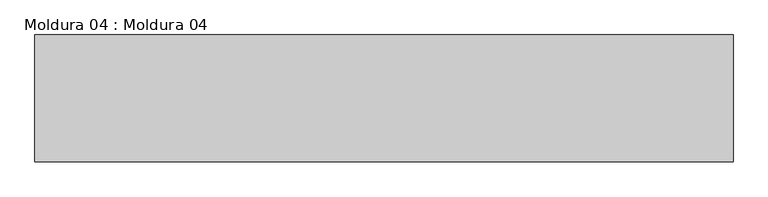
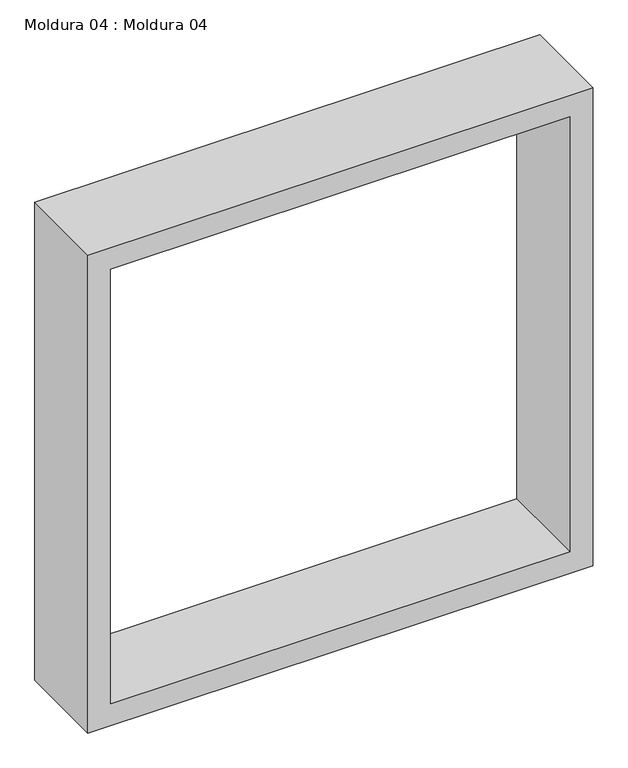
"""IFC4 building model written with IfcOpenShell, lengths in millimetres: proxy geometry, Moldura 04 : Moldura 04."""

from ifc_helpers import new_model, si_unit, frame, origin, place, context, project, spatial, polyline, outline, extrude, source, transform, mapped, element, save


def moldura_04_moldura_04_ba35fd01(model_context):
    return source(origin(), model_context, "Body", "SweptSolid", [
        extrude(outline(polyline([(3150.0, 26620.3673655), (2050.0, 26620.3673655), (2050.0, 27720.3673655), (3150.0, 27720.3673655), (3150.0, 26620.3673655)]), holes=[polyline([(3100.0, 27670.3673655), (2100.0, 27670.3673655), (2100.0, 26670.3673655), (3100.0, 26670.3673655), (3100.0, 27670.3673655)])]), frame((0.0, -8241.1116245, 0.0), z_axis=(0.0, 1.0, 0.0), x_axis=(0.0, 0.0, 1.0)), (0.0, 0.0, 1.0), 200.0),
    ])


if __name__ == "__main__":
    model = new_model("IFC4")
    model_context = context("Model", 3, world=origin())
    ifc_project = project(units=[si_unit("LENGTHUNIT", "METRE", prefix="MILLI")], contexts=[model_context])
    site = spatial("IfcSite", under=ifc_project)
    building = spatial("IfcBuilding", under=site)
    placement = place(None, origin())
    moldura_04_moldura_04_shape = moldura_04_moldura_04_ba35fd01(model_context)
    element("IfcBuildingElementProxy", 1, Name="Moldura 04 : Moldura 04", ObjectType="Moldura 04 : Moldura 04", at=placement, inside=building, context=model_context, shape_type="MappedRepresentation", body=[
        mapped(moldura_04_moldura_04_shape, transform((0.0, 0.0, 0.0), x_axis=(1.0, 0.0, 0.0), y_axis=(0.0, 1.0, 0.0), z_axis=(0.0, 0.0, 1.0))),
    ])
    save(model, "model.ifc")
